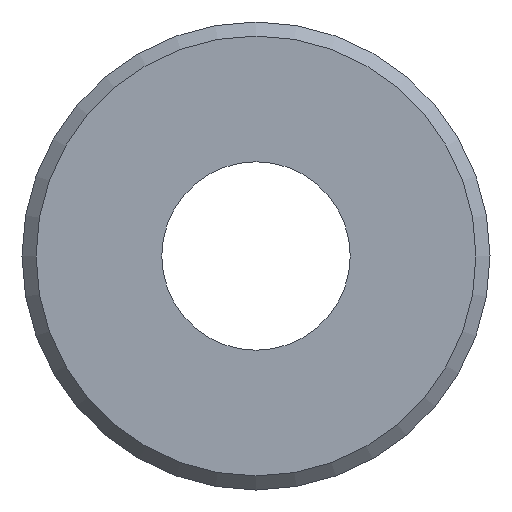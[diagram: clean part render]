
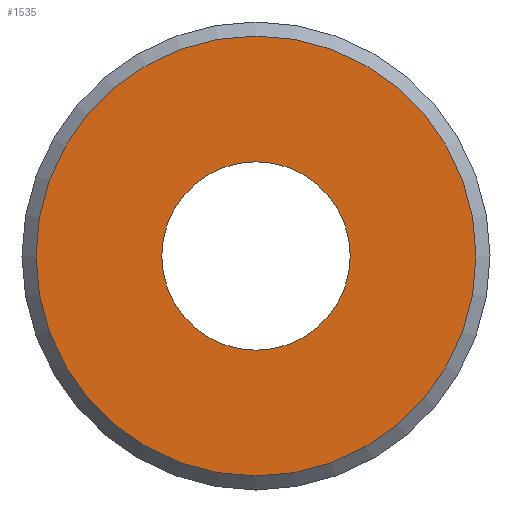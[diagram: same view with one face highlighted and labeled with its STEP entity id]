
A CAD part, left-side view. The second image highlights one B-rep face of the part: STEP entity #1535.
In plain terms, the highlighted planar face has unit normal (-1, 0, 0).
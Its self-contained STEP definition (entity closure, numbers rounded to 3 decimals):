
#253=PLANE('',#1683);
#342=FACE_BOUND('',#488,.T.);
#382=FACE_OUTER_BOUND('',#487,.T.);
#487=EDGE_LOOP('',(#1159));
#488=EDGE_LOOP('',(#1160));
#620=CIRCLE('',#1679,28.019);
#623=CIRCLE('',#1684,12.);
#723=VERTEX_POINT('',#2694);
#726=VERTEX_POINT('',#2702);
#890=EDGE_CURVE('',#723,#723,#620,.T.);
#893=EDGE_CURVE('',#726,#726,#623,.T.);
#1159=ORIENTED_EDGE('',*,*,#890,.F.);
#1160=ORIENTED_EDGE('',*,*,#893,.T.);
#1535=ADVANCED_FACE('',(#382,#342),#253,.T.);
#1679=AXIS2_PLACEMENT_3D('',#2695,#1951,#1952);
#1683=AXIS2_PLACEMENT_3D('',#2701,#1959,#1960);
#1684=AXIS2_PLACEMENT_3D('',#2703,#1961,#1962);
#1951=DIRECTION('center_axis',(1.,0.,0.));
#1952=DIRECTION('ref_axis',(0.,-1.,0.));
#1959=DIRECTION('center_axis',(-1.,0.,0.));
#1960=DIRECTION('ref_axis',(0.,0.,1.));
#1961=DIRECTION('center_axis',(1.,0.,0.));
#1962=DIRECTION('ref_axis',(0.,0.,-1.));
#2694=CARTESIAN_POINT('',(0.,28.019,0.));
#2695=CARTESIAN_POINT('Origin',(0.,0.,0.));
#2701=CARTESIAN_POINT('Origin',(0.,29.807,0.));
#2702=CARTESIAN_POINT('',(0.,12.,0.));
#2703=CARTESIAN_POINT('Origin',(0.,0.,0.));
